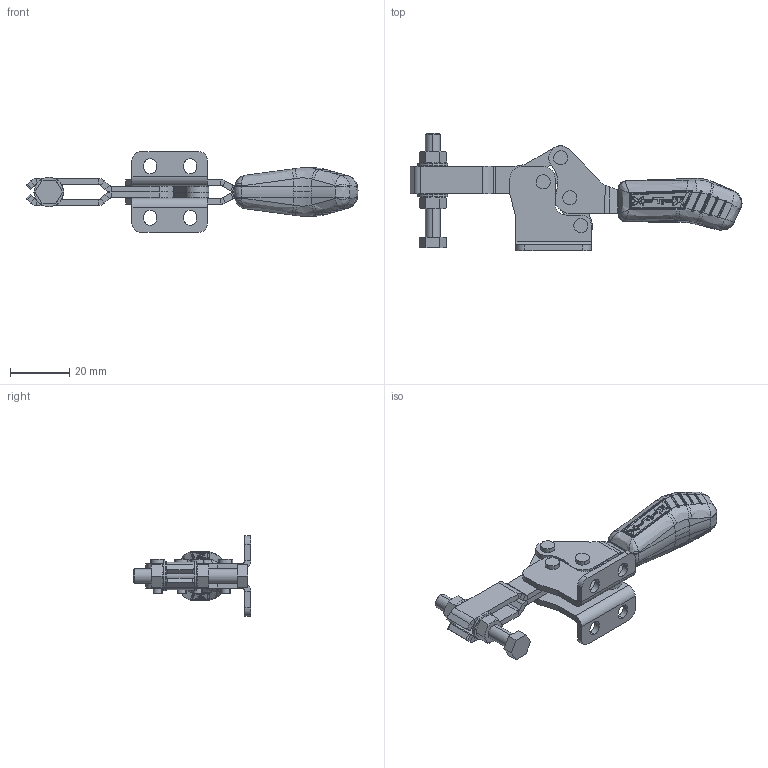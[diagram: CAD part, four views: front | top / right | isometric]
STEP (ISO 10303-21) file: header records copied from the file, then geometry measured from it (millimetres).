
FILE_DESCRIPTION (( 'STEP AP203' ), '1' );
FILE_NAME ('KF-312 D.STEP', '2018-03-06T11:33:51', ( 'Ricardo' ), ( '' ), 'SwSTEP 2.0', 'SolidWorks 2018', '' );
FILE_SCHEMA (( 'CONFIG_CONTROL_DESIGN' ));
Length unit declared in the file: millimetre
Products named in the file (13): 03.13070_esquerda; 08.10116; 07.60004; 3670000095; 01.10313; 12.50018; 01.10313_esquerda; 11.50005; 02.12204; 17.50007; 02.12204_esquerda; KF-312 D; 03.13070
Assembly tree (18 placements, depth 2):
  KF-312 D
    01.10313
    01.10313_esquerda
    02.12204
    02.12204_esquerda
    03.13070
    03.13070_esquerda
    08.10116  x2
    07.60004
    3670000095  x4
    12.50018
    11.50005  x2
    17.50007  x2
Bounding box: 111.72 x 39.45 x 27.2 mm (x, y, z)
Volume: 14885 mm3; surface area: 14975.6 mm2
Topology: 18 solids, 18 shells, 1083 faces, 2678 edges, 1624 vertices
Faces by surface type: cylinder 382, plane 320, bspline 268, cone 58, sphere 52, torus 3
Entity records: 35823 total; most frequent: CARTESIAN_POINT 12871, ORIENTED_EDGE 4980, DIRECTION 3851, EDGE_CURVE 2490, VERTEX_POINT 1514, AXIS2_PLACEMENT_3D 1485, EDGE_LOOP 1072, ADVANCED_FACE 1010
